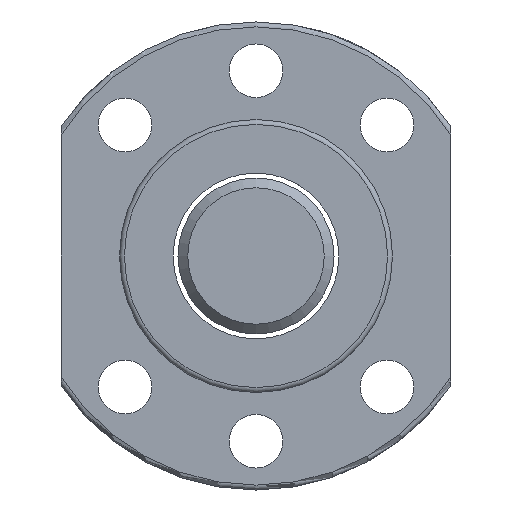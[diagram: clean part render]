
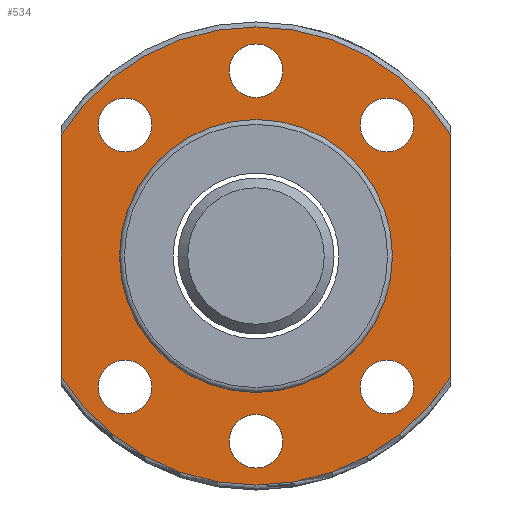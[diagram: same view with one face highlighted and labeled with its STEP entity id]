
A CAD part, left-side view. The second image highlights one B-rep face of the part: STEP entity #534.
In plain terms, the highlighted planar face has unit normal (-1, 0, 0).
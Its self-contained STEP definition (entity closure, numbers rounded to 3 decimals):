
#84=LINE('',#947,#92);
#85=LINE('',#948,#93);
#92=VECTOR('',#737,1000.);
#93=VECTOR('',#738,1000.);
#133=PLANE('',#615);
#187=ORIENTED_EDGE('',*,*,#295,.T.);
#188=ORIENTED_EDGE('',*,*,#296,.F.);
#189=ORIENTED_EDGE('',*,*,#297,.F.);
#190=ORIENTED_EDGE('',*,*,#298,.F.);
#191=ORIENTED_EDGE('',*,*,#299,.F.);
#192=ORIENTED_EDGE('',*,*,#300,.F.);
#193=ORIENTED_EDGE('',*,*,#301,.F.);
#194=ORIENTED_EDGE('',*,*,#264,.F.);
#195=ORIENTED_EDGE('',*,*,#302,.T.);
#196=ORIENTED_EDGE('',*,*,#266,.F.);
#197=ORIENTED_EDGE('',*,*,#303,.F.);
#264=EDGE_CURVE('',#323,#324,#369,.T.);
#266=EDGE_CURVE('',#325,#326,#370,.T.);
#295=EDGE_CURVE('',#348,#348,#383,.T.);
#296=EDGE_CURVE('',#349,#349,#384,.T.);
#297=EDGE_CURVE('',#350,#350,#385,.T.);
#298=EDGE_CURVE('',#351,#351,#386,.T.);
#299=EDGE_CURVE('',#352,#352,#387,.T.);
#300=EDGE_CURVE('',#353,#353,#388,.T.);
#301=EDGE_CURVE('',#354,#354,#389,.T.);
#302=EDGE_CURVE('',#323,#326,#84,.T.);
#303=EDGE_CURVE('',#324,#325,#85,.T.);
#323=VERTEX_POINT('',#817);
#324=VERTEX_POINT('',#819);
#325=VERTEX_POINT('',#828);
#326=VERTEX_POINT('',#829);
#348=VERTEX_POINT('',#934);
#349=VERTEX_POINT('',#936);
#350=VERTEX_POINT('',#938);
#351=VERTEX_POINT('',#940);
#352=VERTEX_POINT('',#942);
#353=VERTEX_POINT('',#944);
#354=VERTEX_POINT('',#946);
#369=CIRCLE('',#595,23.5);
#370=CIRCLE('',#597,23.5);
#383=CIRCLE('',#616,14.);
#384=CIRCLE('',#617,2.75);
#385=CIRCLE('',#618,2.75);
#386=CIRCLE('',#619,2.75);
#387=CIRCLE('',#620,2.75);
#388=CIRCLE('',#621,2.75);
#389=CIRCLE('',#622,2.75);
#419=EDGE_LOOP('',(#187));
#420=EDGE_LOOP('',(#188));
#421=EDGE_LOOP('',(#189));
#422=EDGE_LOOP('',(#190));
#423=EDGE_LOOP('',(#191));
#424=EDGE_LOOP('',(#192));
#425=EDGE_LOOP('',(#193));
#426=EDGE_LOOP('',(#194,#195,#196,#197));
#481=FACE_BOUND('',#419,.T.);
#482=FACE_BOUND('',#420,.T.);
#483=FACE_BOUND('',#421,.T.);
#484=FACE_BOUND('',#422,.T.);
#485=FACE_BOUND('',#423,.T.);
#486=FACE_BOUND('',#424,.T.);
#487=FACE_BOUND('',#425,.T.);
#488=FACE_BOUND('',#426,.T.);
#534=ADVANCED_FACE('',(#481,#482,#483,#484,#485,#486,#487,#488),#133,.T.);
#595=AXIS2_PLACEMENT_3D('',#818,#675,#676);
#597=AXIS2_PLACEMENT_3D('',#827,#679,#680);
#615=AXIS2_PLACEMENT_3D('',#932,#721,#722);
#616=AXIS2_PLACEMENT_3D('',#933,#723,#724);
#617=AXIS2_PLACEMENT_3D('',#935,#725,#726);
#618=AXIS2_PLACEMENT_3D('',#937,#727,#728);
#619=AXIS2_PLACEMENT_3D('',#939,#729,#730);
#620=AXIS2_PLACEMENT_3D('',#941,#731,#732);
#621=AXIS2_PLACEMENT_3D('',#943,#733,#734);
#622=AXIS2_PLACEMENT_3D('',#945,#735,#736);
#675=DIRECTION('',(1.,0.,0.));
#676=DIRECTION('',(0.,1.,0.));
#679=DIRECTION('',(1.,0.,0.));
#680=DIRECTION('',(0.,1.,0.));
#721=DIRECTION('',(-1.,0.,0.));
#722=DIRECTION('',(0.,-1.,0.));
#723=DIRECTION('',(1.,0.,0.));
#724=DIRECTION('',(0.,1.,0.));
#725=DIRECTION('',(-1.,0.,0.));
#726=DIRECTION('',(0.,-1.,0.));
#727=DIRECTION('',(-1.,0.,0.));
#728=DIRECTION('',(0.,-1.,0.));
#729=DIRECTION('',(-1.,0.,0.));
#730=DIRECTION('',(0.,-1.,0.));
#731=DIRECTION('',(-1.,0.,0.));
#732=DIRECTION('',(0.,-1.,0.));
#733=DIRECTION('',(-1.,0.,0.));
#734=DIRECTION('',(0.,-1.,0.));
#735=DIRECTION('',(-1.,0.,0.));
#736=DIRECTION('',(0.,-1.,0.));
#737=DIRECTION('',(0.,0.,1.));
#738=DIRECTION('',(0.,0.,1.));
#817=CARTESIAN_POINT('',(-25.,-20.,-12.339));
#818=CARTESIAN_POINT('',(-25.,0.,0.));
#819=CARTESIAN_POINT('',(-25.,20.,-12.339));
#827=CARTESIAN_POINT('',(-25.,0.,0.));
#828=CARTESIAN_POINT('',(-25.,20.,12.339));
#829=CARTESIAN_POINT('',(-25.,-20.,12.339));
#932=CARTESIAN_POINT('',(-25.,18.75,0.));
#933=CARTESIAN_POINT('',(-25.,0.,0.));
#934=CARTESIAN_POINT('',(-25.,14.,0.));
#935=CARTESIAN_POINT('',(-25.,13.44,13.44));
#936=CARTESIAN_POINT('',(-25.,10.69,13.44));
#937=CARTESIAN_POINT('',(-25.,-13.44,13.44));
#938=CARTESIAN_POINT('',(-25.,-16.19,13.44));
#939=CARTESIAN_POINT('',(-25.,-13.44,-13.44));
#940=CARTESIAN_POINT('',(-25.,-16.19,-13.44));
#941=CARTESIAN_POINT('',(-25.,13.44,-13.44));
#942=CARTESIAN_POINT('',(-25.,10.69,-13.44));
#943=CARTESIAN_POINT('',(-25.,0.,19.));
#944=CARTESIAN_POINT('',(-25.,-2.75,19.));
#945=CARTESIAN_POINT('',(-25.,0.,-19.));
#946=CARTESIAN_POINT('',(-25.,-2.75,-19.));
#947=CARTESIAN_POINT('',(-25.,-20.,0.));
#948=CARTESIAN_POINT('',(-25.,20.,0.));
